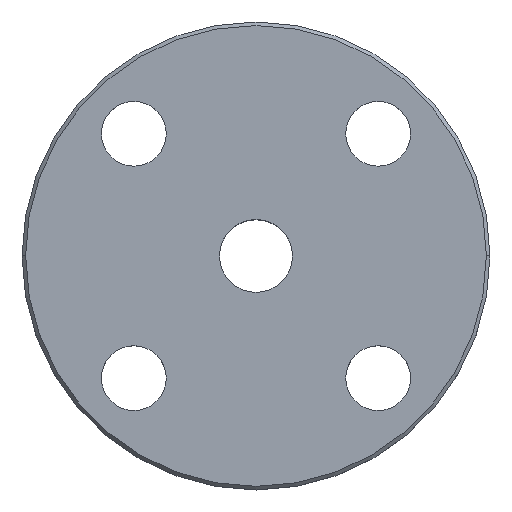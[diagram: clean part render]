
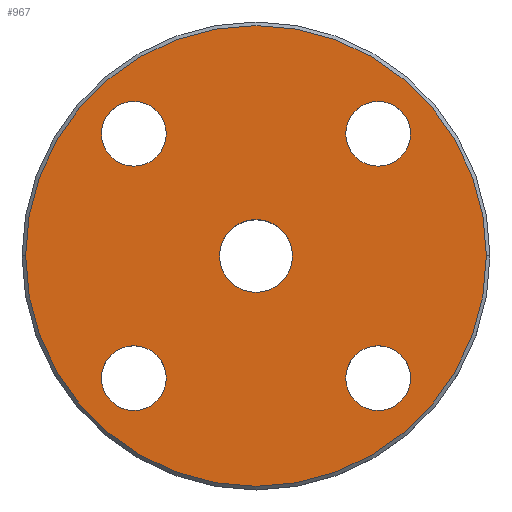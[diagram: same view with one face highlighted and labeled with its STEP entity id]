
A CAD part, top view. The second image highlights one B-rep face of the part: STEP entity #967.
In plain terms, the highlighted planar face has unit normal (0, 0, 1).
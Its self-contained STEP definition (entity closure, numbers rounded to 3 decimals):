
#9 = EDGE_CURVE ( 'NONE', #785, #686, #31, .T. ) ;
#15 = CARTESIAN_POINT ( 'NONE',  ( -16.971, -16.971, 166. ) ) ;
#19 = DIRECTION ( 'NONE',  ( 0., 0., -1. ) ) ;
#26 = DIRECTION ( 'NONE',  ( 0., 1., 0. ) ) ;
#31 = CIRCLE ( 'NONE', #202, 4.5 ) ;
#46 = VERTEX_POINT ( 'NONE', #739 ) ;
#69 = DIRECTION ( 'NONE',  ( 0., 1., 0. ) ) ;
#80 = DIRECTION ( 'NONE',  ( 1., 0., 0. ) ) ;
#89 = DIRECTION ( 'NONE',  ( 0., 0., -1. ) ) ;
#93 = CARTESIAN_POINT ( 'NONE',  ( -12.471, 16.971, 166. ) ) ;
#113 = VERTEX_POINT ( 'NONE', #494 ) ;
#118 = CIRCLE ( 'NONE', #391, 4.5 ) ;
#126 = FACE_BOUND ( 'NONE', #341, .T. ) ;
#142 = EDGE_LOOP ( 'NONE', ( #853, #974 ) ) ;
#147 = VERTEX_POINT ( 'NONE', #969 ) ;
#149 = CARTESIAN_POINT ( 'NONE',  ( -16.971, 16.971, 166. ) ) ;
#150 = DIRECTION ( 'NONE',  ( 0., 0., -1. ) ) ;
#163 = CIRCLE ( 'NONE', #972, 5.053 ) ;
#169 = VERTEX_POINT ( 'NONE', #380 ) ;
#184 = FACE_OUTER_BOUND ( 'NONE', #142, .T. ) ;
#188 = PLANE ( 'NONE',  #482 ) ;
#200 = EDGE_CURVE ( 'NONE', #113, #439, #795, .T. ) ;
#202 = AXIS2_PLACEMENT_3D ( 'NONE', #661, #734, #426 ) ;
#209 = EDGE_CURVE ( 'NONE', #550, #518, #345, .T. ) ;
#221 = CARTESIAN_POINT ( 'NONE',  ( 0., 0., 166. ) ) ;
#223 = DIRECTION ( 'NONE',  ( -1., 0., 0. ) ) ;
#237 = CARTESIAN_POINT ( 'NONE',  ( 0., 0., 166. ) ) ;
#247 = CARTESIAN_POINT ( 'NONE',  ( 16.971, -16.971, 166. ) ) ;
#253 = AXIS2_PLACEMENT_3D ( 'NONE', #302, #298, #80 ) ;
#261 = FACE_BOUND ( 'NONE', #346, .T. ) ;
#280 = VERTEX_POINT ( 'NONE', #834 ) ;
#298 = DIRECTION ( 'NONE',  ( 0., 0., -1. ) ) ;
#302 = CARTESIAN_POINT ( 'NONE',  ( 0., 0., 166. ) ) ;
#309 = AXIS2_PLACEMENT_3D ( 'NONE', #247, #19, #398 ) ;
#324 = ORIENTED_EDGE ( 'NONE', *, *, #826, .T. ) ;
#341 = EDGE_LOOP ( 'NONE', ( #825, #324 ) ) ;
#345 = CIRCLE ( 'NONE', #908, 5.053 ) ;
#346 = EDGE_LOOP ( 'NONE', ( #421, #408 ) ) ;
#380 = CARTESIAN_POINT ( 'NONE',  ( 21.471, -16.971, 166. ) ) ;
#386 = CIRCLE ( 'NONE', #309, 4.5 ) ;
#391 = AXIS2_PLACEMENT_3D ( 'NONE', #748, #754, #69 ) ;
#394 = VERTEX_POINT ( 'NONE', #480 ) ;
#395 = CARTESIAN_POINT ( 'NONE',  ( -16.971, -16.971, 166. ) ) ;
#398 = DIRECTION ( 'NONE',  ( 1., 0., 0. ) ) ;
#403 = DIRECTION ( 'NONE',  ( 1., 0., 0. ) ) ;
#408 = ORIENTED_EDGE ( 'NONE', *, *, #714, .T. ) ;
#411 = CARTESIAN_POINT ( 'NONE',  ( -16.971, -21.471, 166. ) ) ;
#419 = CIRCLE ( 'NONE', #979, 4.5 ) ;
#421 = ORIENTED_EDGE ( 'NONE', *, *, #830, .T. ) ;
#426 = DIRECTION ( 'NONE',  ( -1., 0., 0. ) ) ;
#429 = CIRCLE ( 'NONE', #664, 32. ) ;
#439 = VERTEX_POINT ( 'NONE', #489 ) ;
#455 = VERTEX_POINT ( 'NONE', #411 ) ;
#466 = ORIENTED_EDGE ( 'NONE', *, *, #816, .T. ) ;
#480 = CARTESIAN_POINT ( 'NONE',  ( 16.971, 12.471, 166. ) ) ;
#482 = AXIS2_PLACEMENT_3D ( 'NONE', #496, #865, #492 ) ;
#489 = CARTESIAN_POINT ( 'NONE',  ( -32., 0., 166. ) ) ;
#492 = DIRECTION ( 'NONE',  ( 0., -1., 0. ) ) ;
#494 = CARTESIAN_POINT ( 'NONE',  ( 32., 0., 166. ) ) ;
#496 = CARTESIAN_POINT ( 'NONE',  ( 0., 0., 166. ) ) ;
#518 = VERTEX_POINT ( 'NONE', #554 ) ;
#538 = DIRECTION ( 'NONE',  ( 0., 0., -1. ) ) ;
#550 = VERTEX_POINT ( 'NONE', #874 ) ;
#551 = CIRCLE ( 'NONE', #774, 4.5 ) ;
#552 = DIRECTION ( 'NONE',  ( 0., 0., -1. ) ) ;
#554 = CARTESIAN_POINT ( 'NONE',  ( -5.053, 0., 166. ) ) ;
#555 = EDGE_LOOP ( 'NONE', ( #959, #840 ) ) ;
#556 = DIRECTION ( 'NONE',  ( 0., -1., 0. ) ) ;
#575 = ORIENTED_EDGE ( 'NONE', *, *, #788, .T. ) ;
#591 = DIRECTION ( 'NONE',  ( 1., 0., 0. ) ) ;
#596 = AXIS2_PLACEMENT_3D ( 'NONE', #934, #538, #26 ) ;
#653 = EDGE_LOOP ( 'NONE', ( #466, #575 ) ) ;
#661 = CARTESIAN_POINT ( 'NONE',  ( -16.971, 16.971, 166. ) ) ;
#664 = AXIS2_PLACEMENT_3D ( 'NONE', #923, #843, #403 ) ;
#685 = DIRECTION ( 'NONE',  ( 0., 0., -1. ) ) ;
#686 = VERTEX_POINT ( 'NONE', #832 ) ;
#710 = DIRECTION ( 'NONE',  ( 0., -1., 0. ) ) ;
#714 = EDGE_CURVE ( 'NONE', #46, #169, #419, .T. ) ;
#715 = FACE_BOUND ( 'NONE', #555, .T. ) ;
#727 = CIRCLE ( 'NONE', #833, 4.5 ) ;
#734 = DIRECTION ( 'NONE',  ( 0., 0., -1. ) ) ;
#735 = CIRCLE ( 'NONE', #596, 4.5 ) ;
#737 = EDGE_CURVE ( 'NONE', #280, #394, #118, .T. ) ;
#739 = CARTESIAN_POINT ( 'NONE',  ( 12.471, -16.971, 166. ) ) ;
#748 = CARTESIAN_POINT ( 'NONE',  ( 16.971, 16.971, 166. ) ) ;
#751 = EDGE_CURVE ( 'NONE', #686, #785, #551, .T. ) ;
#754 = DIRECTION ( 'NONE',  ( 0., 0., -1. ) ) ;
#755 = AXIS2_PLACEMENT_3D ( 'NONE', #15, #89, #710 ) ;
#774 = AXIS2_PLACEMENT_3D ( 'NONE', #149, #685, #223 ) ;
#785 = VERTEX_POINT ( 'NONE', #93 ) ;
#788 = EDGE_CURVE ( 'NONE', #147, #455, #727, .T. ) ;
#795 = CIRCLE ( 'NONE', #253, 32. ) ;
#816 = EDGE_CURVE ( 'NONE', #455, #147, #931, .T. ) ;
#825 = ORIENTED_EDGE ( 'NONE', *, *, #737, .T. ) ;
#826 = EDGE_CURVE ( 'NONE', #394, #280, #735, .T. ) ;
#830 = EDGE_CURVE ( 'NONE', #169, #46, #386, .T. ) ;
#832 = CARTESIAN_POINT ( 'NONE',  ( -21.471, 16.971, 166. ) ) ;
#833 = AXIS2_PLACEMENT_3D ( 'NONE', #395, #552, #556 ) ;
#834 = CARTESIAN_POINT ( 'NONE',  ( 16.971, 21.471, 166. ) ) ;
#840 = ORIENTED_EDGE ( 'NONE', *, *, #855, .T. ) ;
#843 = DIRECTION ( 'NONE',  ( 0., 0., -1. ) ) ;
#846 = DIRECTION ( 'NONE',  ( 1., 0., 0. ) ) ;
#853 = ORIENTED_EDGE ( 'NONE', *, *, #200, .F. ) ;
#854 = EDGE_CURVE ( 'NONE', #439, #113, #429, .T. ) ;
#855 = EDGE_CURVE ( 'NONE', #518, #550, #163, .T. ) ;
#863 = ORIENTED_EDGE ( 'NONE', *, *, #9, .T. ) ;
#865 = DIRECTION ( 'NONE',  ( 0., 0., 1. ) ) ;
#874 = CARTESIAN_POINT ( 'NONE',  ( 5.053, 0., 166. ) ) ;
#897 = EDGE_LOOP ( 'NONE', ( #970, #863 ) ) ;
#908 = AXIS2_PLACEMENT_3D ( 'NONE', #221, #150, #591 ) ;
#914 = DIRECTION ( 'NONE',  ( 1., 0., 0. ) ) ;
#923 = CARTESIAN_POINT ( 'NONE',  ( 0., 0., 166. ) ) ;
#927 = DIRECTION ( 'NONE',  ( 0., 0., -1. ) ) ;
#931 = CIRCLE ( 'NONE', #755, 4.5 ) ;
#934 = CARTESIAN_POINT ( 'NONE',  ( 16.971, 16.971, 166. ) ) ;
#942 = FACE_BOUND ( 'NONE', #653, .T. ) ;
#951 = FACE_BOUND ( 'NONE', #897, .T. ) ;
#959 = ORIENTED_EDGE ( 'NONE', *, *, #209, .T. ) ;
#967 = ADVANCED_FACE ( 'NONE', ( #951, #126, #942, #261, #715, #184 ), #188, .T. ) ;
#968 = CARTESIAN_POINT ( 'NONE',  ( 16.971, -16.971, 166. ) ) ;
#969 = CARTESIAN_POINT ( 'NONE',  ( -16.971, -12.471, 166. ) ) ;
#970 = ORIENTED_EDGE ( 'NONE', *, *, #751, .T. ) ;
#972 = AXIS2_PLACEMENT_3D ( 'NONE', #237, #927, #846 ) ;
#973 = DIRECTION ( 'NONE',  ( 0., 0., -1. ) ) ;
#974 = ORIENTED_EDGE ( 'NONE', *, *, #854, .F. ) ;
#979 = AXIS2_PLACEMENT_3D ( 'NONE', #968, #973, #914 ) ;
